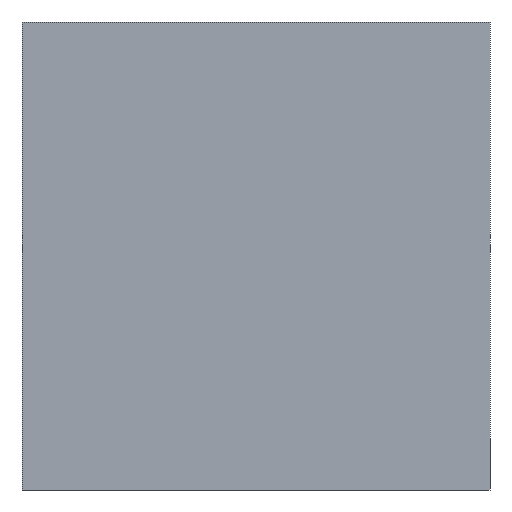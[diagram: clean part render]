
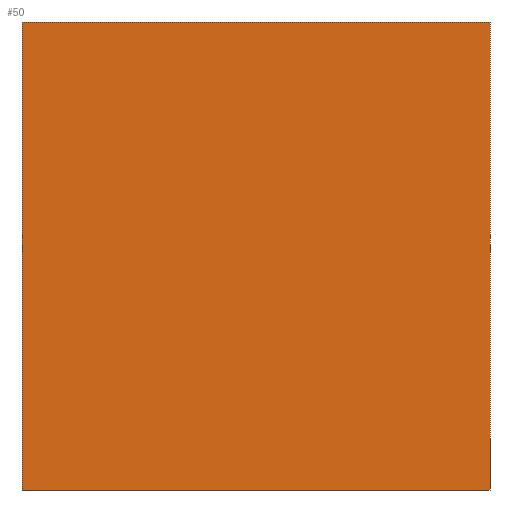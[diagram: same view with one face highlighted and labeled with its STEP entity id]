
A CAD part, left-side view. The second image highlights one B-rep face of the part: STEP entity #50.
In plain terms, the highlighted planar face has unit normal (-1, 0, 0).
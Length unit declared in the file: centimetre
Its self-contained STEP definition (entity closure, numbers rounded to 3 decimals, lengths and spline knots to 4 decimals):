
#10 = DIRECTION ( 'NONE',  ( 0., 0., -1. ) ) ;
#40 = VECTOR ( 'NONE', #234, 100. ) ;
#42 = CARTESIAN_POINT ( 'NONE',  ( 0., 0., 1000. ) ) ;
#50 = ADVANCED_FACE ( 'NONE', ( #54 ), #466, .F. ) ;
#54 = FACE_OUTER_BOUND ( 'NONE', #318, .T. ) ;
#93 = DIRECTION ( 'NONE',  ( 0., 0., -1. ) ) ;
#94 = VERTEX_POINT ( 'NONE', #292 ) ;
#120 = VERTEX_POINT ( 'NONE', #165 ) ;
#137 = CARTESIAN_POINT ( 'NONE',  ( 0., 1000., 0. ) ) ;
#156 = AXIS2_PLACEMENT_3D ( 'NONE', #264, #421, #10 ) ;
#164 = ORIENTED_EDGE ( 'NONE', *, *, #233, .T. ) ;
#165 = CARTESIAN_POINT ( 'NONE',  ( 0., 0., 0. ) ) ;
#174 = CARTESIAN_POINT ( 'NONE',  ( 0., 1000., 0. ) ) ;
#175 = ORIENTED_EDGE ( 'NONE', *, *, #443, .F. ) ;
#233 = EDGE_CURVE ( 'NONE', #515, #314, #349, .T. ) ;
#234 = DIRECTION ( 'NONE',  ( 0., 0., -1. ) ) ;
#241 = CARTESIAN_POINT ( 'NONE',  ( 0., 1000., 1000. ) ) ;
#264 = CARTESIAN_POINT ( 'NONE',  ( 0., 1000., 1000. ) ) ;
#283 = ORIENTED_EDGE ( 'NONE', *, *, #425, .F. ) ;
#292 = CARTESIAN_POINT ( 'NONE',  ( 0., 0., 1000. ) ) ;
#314 = VERTEX_POINT ( 'NONE', #137 ) ;
#318 = EDGE_LOOP ( 'NONE', ( #403, #283, #175, #164 ) ) ;
#327 = LINE ( 'NONE', #491, #484 ) ;
#330 = LINE ( 'NONE', #42, #500 ) ;
#332 = LINE ( 'NONE', #174, #419 ) ;
#337 = CARTESIAN_POINT ( 'NONE',  ( 0., 1000., 1000. ) ) ;
#349 = LINE ( 'NONE', #241, #40 ) ;
#368 = DIRECTION ( 'NONE',  ( 0., -1., 0. ) ) ;
#403 = ORIENTED_EDGE ( 'NONE', *, *, #416, .T. ) ;
#416 = EDGE_CURVE ( 'NONE', #314, #120, #332, .T. ) ;
#419 = VECTOR ( 'NONE', #368, 100. ) ;
#421 = DIRECTION ( 'NONE',  ( 1., 0., 0. ) ) ;
#425 = EDGE_CURVE ( 'NONE', #94, #120, #330, .T. ) ;
#443 = EDGE_CURVE ( 'NONE', #515, #94, #327, .T. ) ;
#462 = DIRECTION ( 'NONE',  ( 0., -1., 0. ) ) ;
#466 = PLANE ( 'NONE',  #156 ) ;
#484 = VECTOR ( 'NONE', #462, 100. ) ;
#491 = CARTESIAN_POINT ( 'NONE',  ( 0., 1000., 1000. ) ) ;
#500 = VECTOR ( 'NONE', #93, 100. ) ;
#515 = VERTEX_POINT ( 'NONE', #337 ) ;
